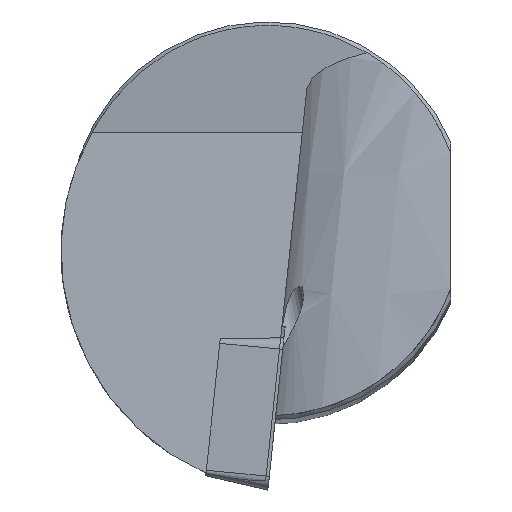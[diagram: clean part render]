
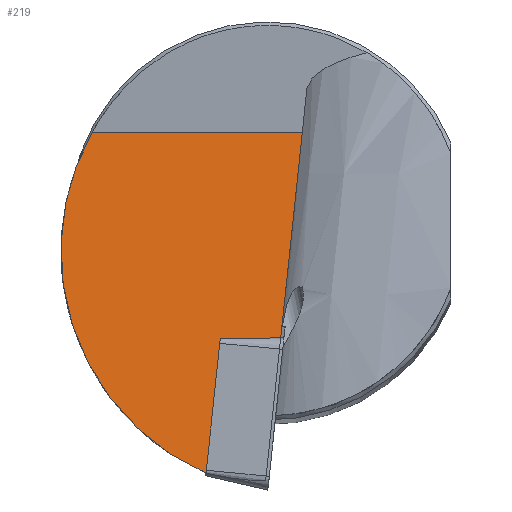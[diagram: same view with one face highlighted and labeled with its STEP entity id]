
A CAD part, top view. The second image highlights one B-rep face of the part: STEP entity #219.
In plain terms, the highlighted planar face has unit normal (0, 0.088, 0.996).
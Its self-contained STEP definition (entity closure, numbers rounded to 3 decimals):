
#151=PLANE('',#606);
#165=LINE('',#826,#191);
#166=LINE('',#828,#192);
#191=VECTOR('',#667,1.);
#192=VECTOR('',#668,1.);
#219=ADVANCED_FACE('',(#257),#151,.F.);
#257=FACE_OUTER_BOUND('',#281,.T.);
#281=EDGE_LOOP('',(#345,#346,#347,#348));
#316=ELLIPSE('',#601,16.312,16.248);
#317=ELLIPSE('',#605,15.289,15.231);
#345=ORIENTED_EDGE('',*,*,#516,.T.);
#346=ORIENTED_EDGE('',*,*,#521,.F.);
#347=ORIENTED_EDGE('',*,*,#522,.T.);
#348=ORIENTED_EDGE('',*,*,#523,.F.);
#471=VERTEX_POINT('',#804);
#472=VERTEX_POINT('',#806);
#475=VERTEX_POINT('',#827);
#476=VERTEX_POINT('',#829);
#516=EDGE_CURVE('',#472,#471,#316,.T.);
#521=EDGE_CURVE('',#475,#471,#165,.T.);
#522=EDGE_CURVE('',#475,#476,#166,.T.);
#523=EDGE_CURVE('',#472,#476,#317,.T.);
#601=AXIS2_PLACEMENT_3D('',#805,#659,#660);
#605=AXIS2_PLACEMENT_3D('',#830,#669,#670);
#606=AXIS2_PLACEMENT_3D('',#831,#671,#672);
#659=DIRECTION('',(0.,0.088,0.996));
#660=DIRECTION('',(0.,-0.996,0.088));
#667=DIRECTION('',(-0.104,-0.991,0.087));
#668=DIRECTION('',(-1.,0.,0.));
#669=DIRECTION('',(0.,-0.088,-0.996));
#670=DIRECTION('',(0.,-0.996,0.088));
#671=DIRECTION('',(0.,-0.088,-0.996));
#672=DIRECTION('',(0.,0.996,-0.088));
#804=CARTESIAN_POINT('',(-0.132,-16.373,-1.26));
#805=CARTESIAN_POINT('',(0.,-0.125,-2.689));
#806=CARTESIAN_POINT('',(-3.874,-15.905,-1.301));
#826=CARTESIAN_POINT('',(-0.028,-15.382,-1.347));
#827=CARTESIAN_POINT('',(2.167,5.5,-3.184));
#828=CARTESIAN_POINT('',(-16.44,5.5,-3.184));
#829=CARTESIAN_POINT('',(-11.033,5.5,-3.184));
#830=CARTESIAN_POINT('',(2.247,-1.959,-2.528));
#831=CARTESIAN_POINT('',(-16.44,-16.474,-1.251));
